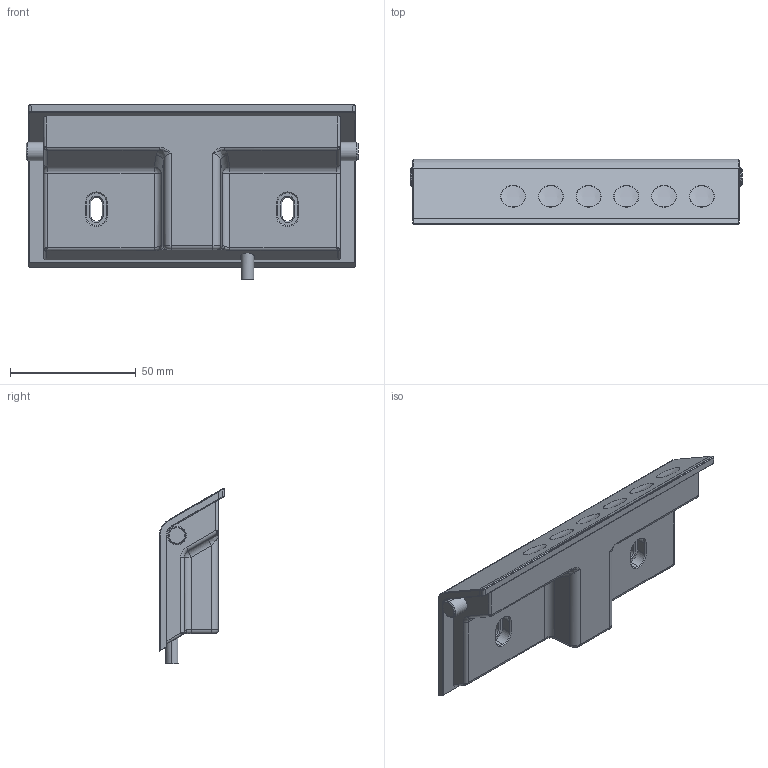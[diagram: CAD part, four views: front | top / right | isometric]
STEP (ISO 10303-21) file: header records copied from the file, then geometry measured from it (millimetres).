
FILE_DESCRIPTION (( 'STEP AP203' ), '1' );
FILE_NAME ('產品三維模型圖-TDH9P-A.STEP', '2021-11-11T09:08:25', ( '' ), ( '' ), 'SwSTEP 2.0', 'SolidWorks 2015', '' );
FILE_SCHEMA (( 'CONFIG_CONTROL_DESIGN' ));
Length unit declared in the file: millimetre
Products named in the file (1): 產品三維模型圖-TDH9P-A
Bounding box: 132 x 25.98 x 69.8 mm (x, y, z)
Volume: 98152.5 mm3; surface area: 24946.3 mm2
Topology: 4 solids, 4 shells, 370 faces, 896 edges, 544 vertices
Faces by surface type: plane 148, cylinder 87, bspline 47, cone 42, torus 38, sphere 8
Entity records: 12800 total; most frequent: CARTESIAN_POINT 4415, ORIENTED_EDGE 1776, DIRECTION 1680, EDGE_CURVE 888, AXIS2_PLACEMENT_3D 597, VERTEX_POINT 544, VECTOR 486, LINE 486
